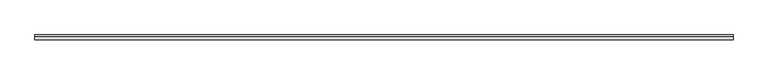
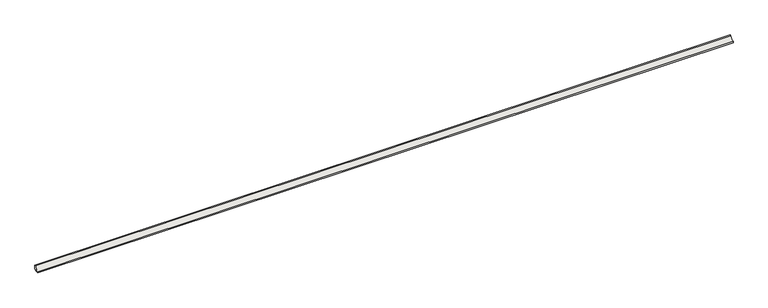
"""IFC4 building model written with IfcOpenShell, lengths in millimetres: slab geometry, ROSA GRES_188 : Pieza 188_Tao_Beige_Liso."""

from ifc_helpers import new_model, si_unit, point, frame, frame_2d, origin, place, context, project, spatial, polyline, circle_curve, trimmed, segment, composite_curve, outline, extrude, source, transform, mapped, element, save


def slab_6ea1b4a0(model_context):
    return source(origin(), model_context, "Body", "SweptSolid", [
        extrude(outline(composite_curve([segment(polyline([(0.0, 8.7114978), (-8.7114978, 0.0), (-40.0, 0.0), (-40.0, 9.9734114)]), True, "CONTINUOUS"), segment(trimmed(circle_curve(frame_2d((-39.9955547, 39.9955547)), 30.0221435), [point((-40.0, 9.9734114))], [point((-9.9734114, 40.0))], True, "CARTESIAN"), True, "CONTINUOUS"), segment(polyline([(-9.9734114, 40.0), (0.0, 40.0), (0.0, 8.7114978)]), True, "CONTINUOUS")], self_intersect=False)), frame((0.0, 0.0, 0.0), z_axis=(1.0, 0.0, 0.0), x_axis=(0.0, 1.0, 0.0)), (0.0, 0.0, 1.0), 5513.0),
    ])


if __name__ == "__main__":
    model = new_model("IFC4")
    model_context = context("Model", 3, world=origin())
    ifc_project = project(units=[si_unit("LENGTHUNIT", "METRE", prefix="MILLI")], contexts=[model_context])
    site = spatial("IfcSite", under=ifc_project)
    building = spatial("IfcBuilding", under=site)
    placement = place(None, origin())
    slab_shape = slab_6ea1b4a0(model_context)
    element("IfcSlab", 1, ObjectType="ROSA GRES_188 : Pieza 188_Tao_Beige_Liso", at=placement, inside=building, context=model_context, shape_type="MappedRepresentation", body=[
        mapped(slab_shape, transform((0.0, 0.0, 0.0), x_axis=(1.0, 0.0, 0.0), y_axis=(0.0, 1.0, 0.0), z_axis=(0.0, 0.0, 1.0))),
    ])
    save(model, "model.ifc")
